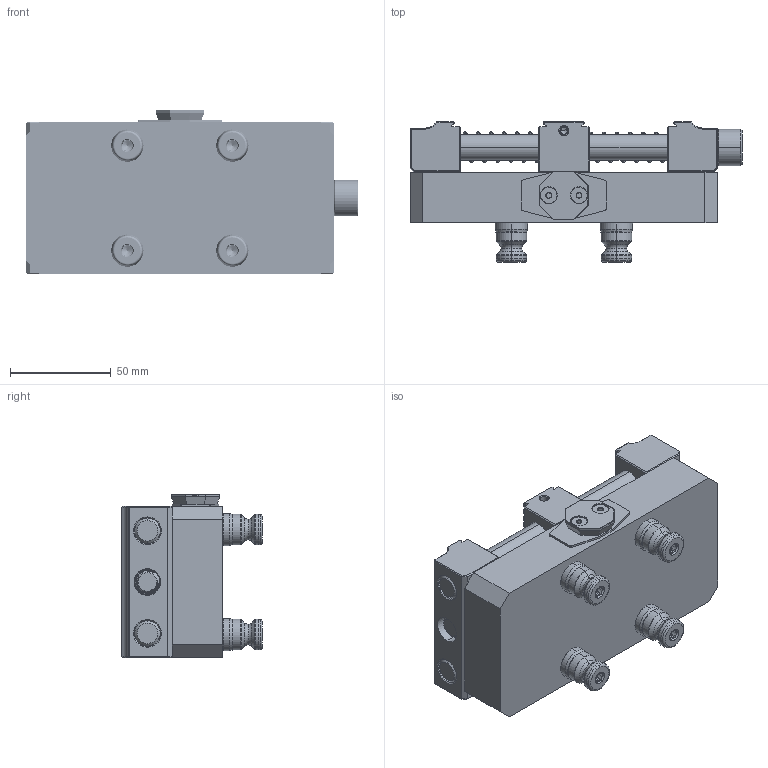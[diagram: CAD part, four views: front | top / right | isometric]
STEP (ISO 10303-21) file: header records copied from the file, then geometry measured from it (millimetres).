
FILE_DESCRIPTION (( 'STEP AP203' ), '1' );
FILE_NAME ('A52-PV3X-6B.STEP', '2022-02-09T16:54:58', ( '' ), ( '' ), 'SwSTEP 2.0', 'SolidWorks 2021', '' );
FILE_SCHEMA (( 'CONFIG_CONTROL_DESIGN' ));
Length unit declared in the file: millimetre
Products named in the file (19): M06X010.DP_91595A438; 91390A145_ALLOY STEEL CUP POINT SET SCREW_91390A145; A52-PV3X-1; M12X150.SHCS_91290A646; PV3X-3B_FINISHED PART; PV3X-2B_FINISHED PART; PS16F_HARD TURN; LC045H10 M; 91263A829_ZINC-PLATED ALLOY STEEL HEX DRIVE FLAT HEAD SCREW_91263A829; PV3X-6B_150MM SHCS; 0500X6000.DP_0500X6000.DP; AS-S; AS-C; AS-TP; A52-PV3X-6B; PV3X-1_FINISHED PART ; M8X025.SHCS_M8X025.SHCS; 91595A100_METRIC ALLOY STEEL DOWEL PIN_91595A100; PS16F
Assembly tree (27 placements, depth 3):
  A52-PV3X-6B
    A52-PV3X-1
    PV3X-6B_150MM SHCS
      PV3X-1_FINISHED PART 
      PV3X-2B_FINISHED PART
      PV3X-3B_FINISHED PART
      0500X6000.DP_0500X6000.DP  x2
      M12X150.SHCS_91290A646
      LC045H10 M  x2
      M8X025.SHCS_M8X025.SHCS  x2
      M06X010.DP_91595A438  x2
    AS-TP
      AS-C
      AS-S
      91263A829_ZINC-PLATED ALLOY STEEL HEX DRIVE FLAT HEAD SCREW_91263A829  x2
      91595A100_METRIC ALLOY STEEL DOWEL PIN_91595A100  x2
    PS16F  x4
      PS16F_HARD TURN
      91390A145_ALLOY STEEL CUP POINT SET SCREW_91390A145
Bounding box: 164.4 x 69.55 x 81 mm (x, y, z)
Volume: 453670 mm3; surface area: 113599.5 mm2
Topology: 27 solids, 27 shells, 2160 faces, 5550 edges, 3504 vertices
Faces by surface type: plane 819, cylinder 759, cone 310, bspline 176, torus 80, sphere 16
Entity records: 70820 total; most frequent: CARTESIAN_POINT 34150, ORIENTED_EDGE 7890, DIRECTION 6244, EDGE_CURVE 3945, VERTEX_POINT 2545, LINE 2212, VECTOR 2212, AXIS2_PLACEMENT_3D 2016
